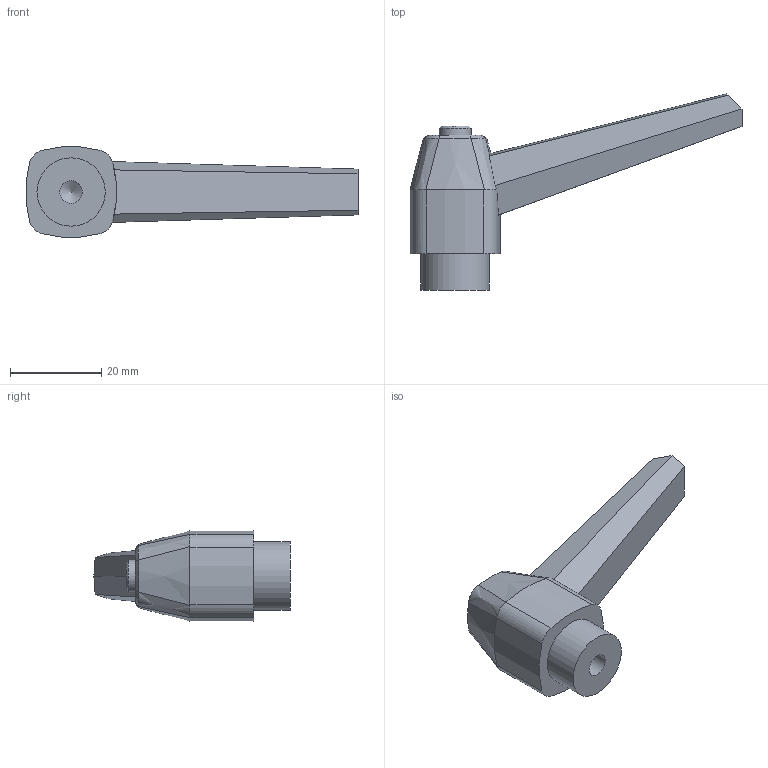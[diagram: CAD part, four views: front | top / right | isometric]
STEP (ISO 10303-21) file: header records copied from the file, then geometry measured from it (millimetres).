
FILE_DESCRIPTION (( 'STEP AP214' ), '1' );
FILE_NAME ('500-63-M6-SW.step', '2022-04-13T07:18:37', ( '' ), ( '' ), 'SwSTEP 2.0', 'SolidWorks 2019', '' );
FILE_SCHEMA (( 'AUTOMOTIVE_DESIGN' ));
Length unit declared in the file: millimetre
Products named in the file (1): 500-63-M6-SW
Bounding box: 72.91 x 43.09 x 19.81 mm (x, y, z)
Volume: 15104.9 mm3; surface area: 5003.1 mm2
Topology: 1 solids, 1 shells, 53 faces, 129 edges, 82 vertices
Faces by surface type: plane 21, cone 12, cylinder 12, bspline 8
Full cylindrical faces by diameter (mm): 5 x1, 7 x1, 8 x1, 15 x1
Entity records: 2018 total; most frequent: CARTESIAN_POINT 889, ORIENTED_EDGE 244, DIRECTION 182, EDGE_CURVE 122, VERTEX_POINT 81, AXIS2_PLACEMENT_3D 74, EDGE_LOOP 63, FACE_OUTER_BOUND 57
